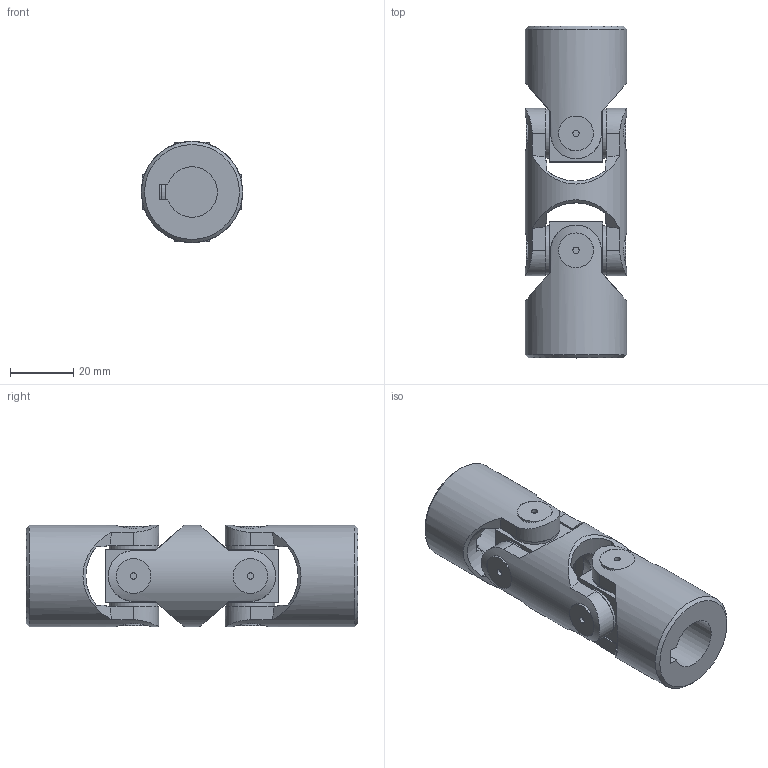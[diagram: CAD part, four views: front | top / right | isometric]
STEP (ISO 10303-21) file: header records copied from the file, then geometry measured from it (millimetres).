
FILE_DESCRIPTION(/* description */ (''),/* implementation_level */ '2;1');
FILE_NAME(/* name */ '\\SRV2016\Societa\Stefano\Disegni 3D\00Catalogo 3D\02Doppi GD-GBD\SG0D162C.stp',/* time_stamp */ '2021-11-22T17:22:28+01:00',/* author */ ('acquisti'),/* organization */ (''),/* preprocessor_version */ 'ST-DEVELOPER v15.6',/* originating_system */ 'Autodesk Inventor 2015',/* authorisation */ '');
FILE_SCHEMA (('AUTOMOTIVE_DESIGN { 1 0 10303 214 3 1 1 }'));
Length unit declared in the file: millimetre
Products named in the file (4): 1G MOD; 1G SFE; 1G MOC; Ø32_1GD-00_SG0D1600
Assembly tree (5 placements, depth 2):
  Ø32_1GD-00_SG0D1600
    1G MOD
    1G SFE  x2
    1G MOC  x2
Bounding box: 32 x 105 x 32 mm (x, y, z)
Volume: 56258.8 mm3; surface area: 21838.6 mm2
Topology: 5 solids, 5 shells, 167 faces, 389 edges, 252 vertices
Faces by surface type: plane 76, cylinder 65, cone 22, torus 4
Full cylindrical faces by diameter (mm): 2 x8, 15.5 x8, 18 x2, 32 x3
Entity records: 3806 total; most frequent: CARTESIAN_POINT 1316, ORIENTED_EDGE 488, DIRECTION 485, EDGE_CURVE 244, AXIS2_PLACEMENT_3D 214, VERTEX_POINT 168, EDGE_LOOP 152, FACE_OUTER_BOUND 115
